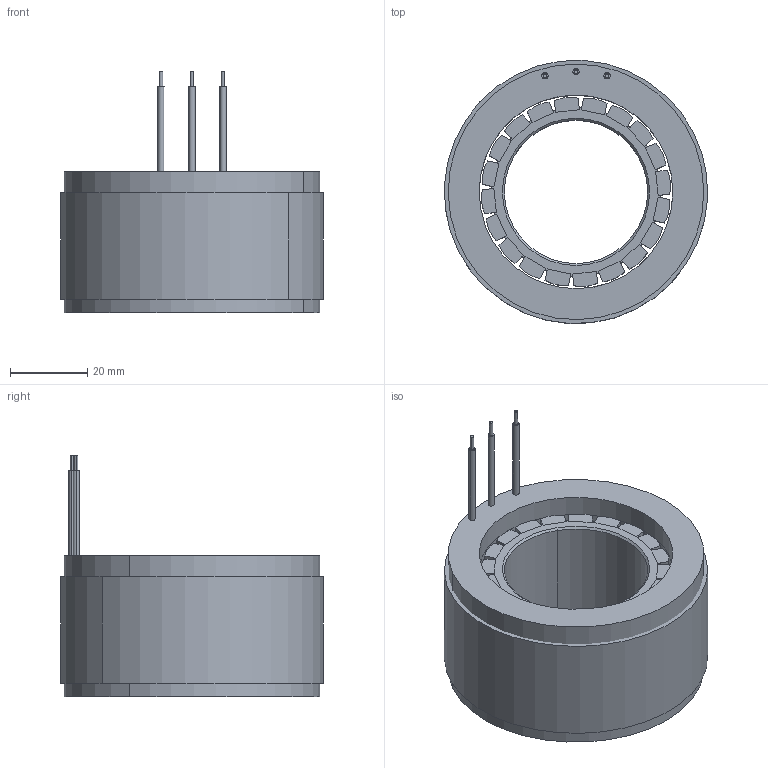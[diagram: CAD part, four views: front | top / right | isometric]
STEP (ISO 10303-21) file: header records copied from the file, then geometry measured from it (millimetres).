
FILE_DESCRIPTION (( 'STEP AP203' ), '1' );
FILE_NAME ('6836µç»ú - ÐÂ.STEP', '2025-02-15T03:19:10', ( '' ), ( '' ), 'SwSTEP 2.0', 'SolidWorks 2023', '' );
FILE_SCHEMA (( 'CONFIG_CONTROL_DESIGN' ));
Length unit declared in the file: millimetre
Products named in the file (1): 6836电机 - 新
Bounding box: 67.9 x 67.9 x 62.4 mm (x, y, z)
Surface area: 37722.3 mm2 (no closed solid volume)
Topology: 0 solids, 29 shells, 141 faces, 804 edges, 668 vertices
Faces by surface type: plane 96, cylinder 41, cone 4
Entity records: 7857 total; most frequent: CARTESIAN_POINT 1614, DIRECTION 1328, ORIENTED_EDGE 998, EDGE_CURVE 804, VERTEX_POINT 668, LINE 564, VECTOR 564, AXIS2_PLACEMENT_3D 382
